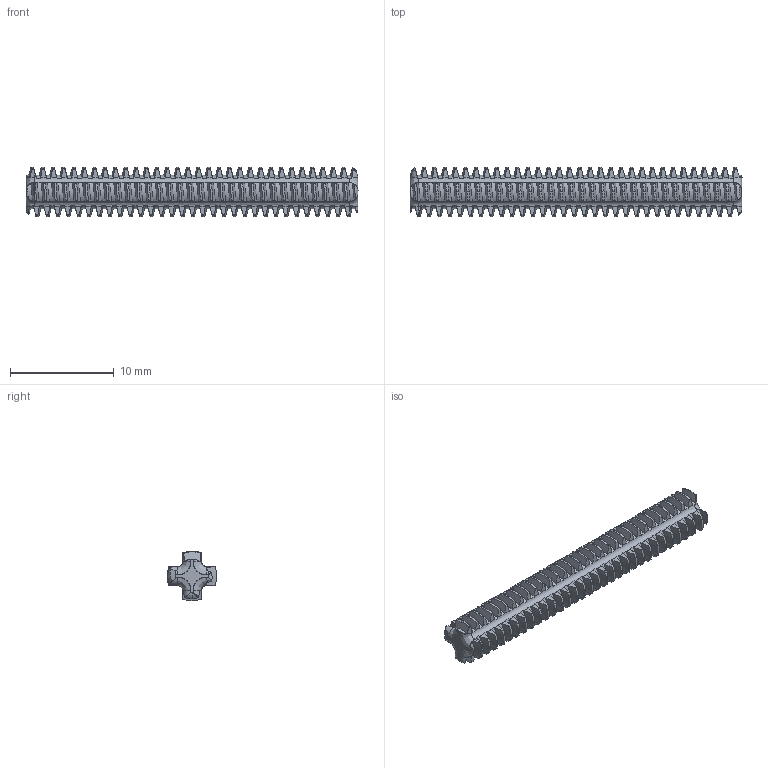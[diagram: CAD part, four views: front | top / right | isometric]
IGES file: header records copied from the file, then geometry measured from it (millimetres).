
Start section: SolidWorks IGES file using analytic representation for surfaces
Global section: file name: C:\Users\PC\Desktop\Lego Technik Gear and Axles\Axles\STEP, IGES, STL\3705c01 Black Technic Axle 4 Threaded.IGS; native system: SolidWorks 2014; preprocessor: SolidWorks 2014; author: PC; date: 150218.223526; units: millimetre
Bounding box: 32 x 4.8 x 4.8 mm (x, y, z)
Surface area: 723.6 mm2 (no closed solid volume)
Topology: 0 solids, 0 shells, 1100 faces, 8226 edges, 8218 vertices
Faces by surface type: bspline 674, revolution 426
